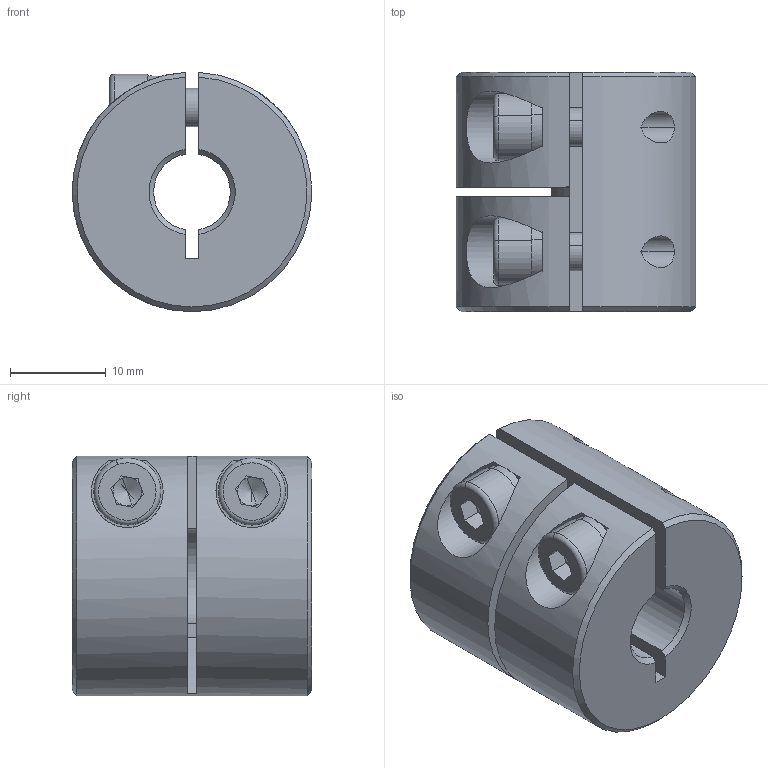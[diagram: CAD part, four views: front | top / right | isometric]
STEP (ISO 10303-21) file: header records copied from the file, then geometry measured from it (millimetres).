
FILE_DESCRIPTION (( 'STEP AP203' ), '1' );
FILE_NAME ('LL-B-D25L25-8-10.STEP', '2021-11-05T06:37:46', ( '' ), ( '' ), 'SwSTEP 2.0', 'SolidWorks 2018', '' );
FILE_SCHEMA (( 'CONFIG_CONTROL_DESIGN' ));
Length unit declared in the file: millimetre
Products named in the file (1): LL-B-D25L25-8-10
Bounding box: 24.99 x 25 x 24.98 mm (x, y, z)
Volume: 9910.2 mm3; surface area: 4944.9 mm2
Topology: 1 solids, 1 shells, 104 faces, 270 edges, 170 vertices
Faces by surface type: plane 52, cylinder 37, cone 11, torus 4
Entity records: 3471 total; most frequent: CARTESIAN_POINT 815, DIRECTION 560, ORIENTED_EDGE 532, EDGE_CURVE 266, AXIS2_PLACEMENT_3D 215, VERTEX_POINT 170, VECTOR 130, LINE 130
